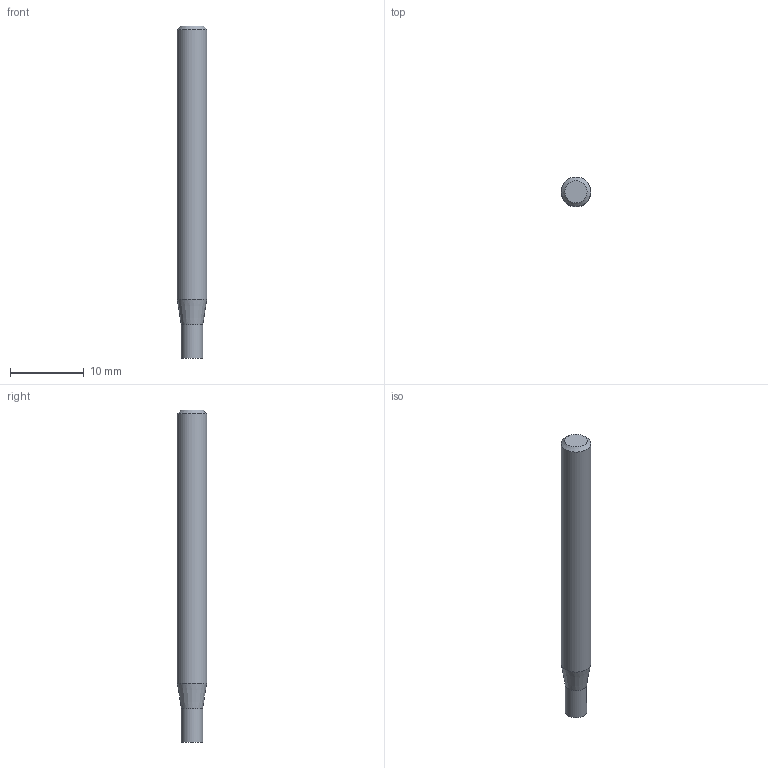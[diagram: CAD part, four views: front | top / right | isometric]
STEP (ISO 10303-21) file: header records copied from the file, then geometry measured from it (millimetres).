
FILE_DESCRIPTION((''),'2;1');
FILE_NAME('C:\Users\nsx150\AppData\Local\Temp\Mastercam 2021\98T1Q6BTT1\TEMP.step','2021-10-21T14:48:15',(''),(''),'STEP Write','Mastercam 2021 ... CNC Software, Inc.','');
FILE_SCHEMA(('AUTOMOTIVE_DESIGN'));
Length unit declared in the file: millimetre
Products named in the file (1): None
Bounding box: 4 x 4 x 45 mm (x, y, z)
Volume: 526.3 mm3; surface area: 572.8 mm2
Topology: 2 solids, 2 shells, 8 faces, 10 edges, 6 vertices
Faces by surface type: plane 4, cylinder 2, cone 2
Full cylindrical faces by diameter (mm): 2.9 x1, 4 x1
Entity records: 190 total; most frequent: DIRECTION 32, CARTESIAN_POINT 22, AXIS2_PLACEMENT_3D 16, ORIENTED_EDGE 12, EDGE_LOOP 12, STYLED_ITEM 11, ADVANCED_FACE 8, VERTEX_POINT 6
